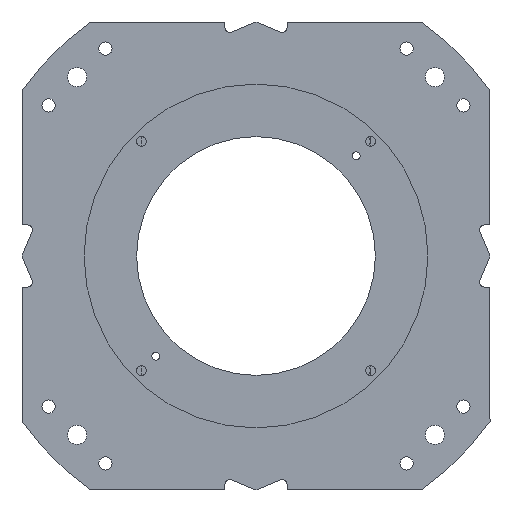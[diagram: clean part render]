
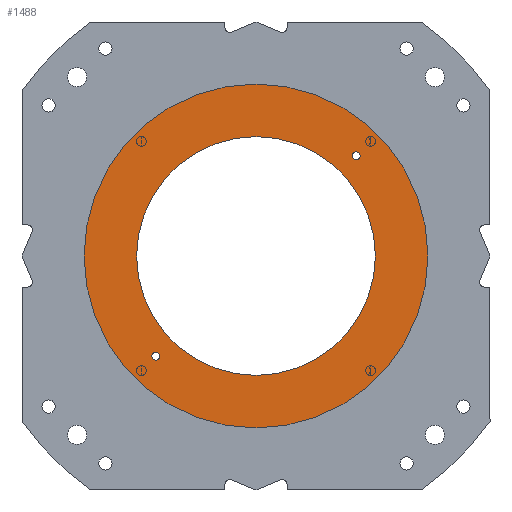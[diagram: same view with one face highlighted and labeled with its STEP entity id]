
A CAD part, front view. The second image highlights one B-rep face of the part: STEP entity #1488.
In plain terms, the highlighted planar face has unit normal (0, -1, 0).
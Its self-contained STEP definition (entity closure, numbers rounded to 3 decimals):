
#177 = CARTESIAN_POINT ( 'NONE',  ( 0., 1163., -180. ) ) ;
#182 = ORIENTED_EDGE ( 'NONE', *, *, #3646, .F. ) ;
#209 = AXIS2_PLACEMENT_3D ( 'NONE', #10570, #9640, #2429 ) ;
#368 = ORIENTED_EDGE ( 'NONE', *, *, #8522, .F. ) ;
#638 = CARTESIAN_POINT ( 'NONE',  ( 0., 1163., 0. ) ) ;
#656 = ORIENTED_EDGE ( 'NONE', *, *, #6267, .F. ) ;
#734 = AXIS2_PLACEMENT_3D ( 'NONE', #638, #6990, #6229 ) ;
#924 = DIRECTION ( 'NONE',  ( 0., 0., 1. ) ) ;
#944 = FACE_BOUND ( 'NONE', #10889, .T. ) ;
#1486 = CARTESIAN_POINT ( 'NONE',  ( 0., 1163., 0. ) ) ;
#1488 = ADVANCED_FACE ( 'NONE', ( #7235, #10774, #944, #9907 ), #7181, .T. ) ;
#1516 = CIRCLE ( 'NONE', #6929, 4. ) ;
#1650 = DIRECTION ( 'NONE',  ( 0., 0., -1. ) ) ;
#1692 = CIRCLE ( 'NONE', #9876, 4. ) ;
#1734 = CARTESIAN_POINT ( 'NONE',  ( 0., 1163., -125. ) ) ;
#1789 = CARTESIAN_POINT ( 'NONE',  ( 0., 1163., 180. ) ) ;
#1799 = CIRCLE ( 'NONE', #8316, 180. ) ;
#1859 = CARTESIAN_POINT ( 'NONE',  ( 105., 1163., 105. ) ) ;
#1886 = CIRCLE ( 'NONE', #8587, 4. ) ;
#2151 = VERTEX_POINT ( 'NONE', #11393 ) ;
#2183 = EDGE_CURVE ( 'NONE', #6730, #9741, #1799, .T. ) ;
#2218 = VERTEX_POINT ( 'NONE', #1734 ) ;
#2257 = DIRECTION ( 'NONE',  ( 0., 0., -1. ) ) ;
#2429 = DIRECTION ( 'NONE',  ( 0., 0., 1. ) ) ;
#2530 = DIRECTION ( 'NONE',  ( 0., 0., -1. ) ) ;
#2596 = ORIENTED_EDGE ( 'NONE', *, *, #2183, .F. ) ;
#2634 = DIRECTION ( 'NONE',  ( 0., -1., 0. ) ) ;
#2746 = DIRECTION ( 'NONE',  ( 0., -1., 0. ) ) ;
#2843 = VERTEX_POINT ( 'NONE', #10370 ) ;
#3197 = AXIS2_PLACEMENT_3D ( 'NONE', #8482, #5045, #2257 ) ;
#3589 = CARTESIAN_POINT ( 'NONE',  ( 0., 1163., 0. ) ) ;
#3646 = EDGE_CURVE ( 'NONE', #2151, #2218, #7794, .T. ) ;
#3702 = DIRECTION ( 'NONE',  ( 0., 1., 0. ) ) ;
#3724 = CARTESIAN_POINT ( 'NONE',  ( 0., 1163., 0. ) ) ;
#4102 = EDGE_CURVE ( 'NONE', #2218, #2151, #10202, .T. ) ;
#4331 = DIRECTION ( 'NONE',  ( 0., -1., 0. ) ) ;
#4365 = CARTESIAN_POINT ( 'NONE',  ( -105., 1163., -109. ) ) ;
#4545 = DIRECTION ( 'NONE',  ( 0., 0., -1. ) ) ;
#4559 = DIRECTION ( 'NONE',  ( 0., 0., -1. ) ) ;
#5045 = DIRECTION ( 'NONE',  ( 0., -1., 0. ) ) ;
#5394 = EDGE_CURVE ( 'NONE', #9741, #6730, #9109, .T. ) ;
#5402 = VERTEX_POINT ( 'NONE', #5999 ) ;
#5834 = CIRCLE ( 'NONE', #3197, 4. ) ;
#5943 = AXIS2_PLACEMENT_3D ( 'NONE', #1486, #4331, #1650 ) ;
#5999 = CARTESIAN_POINT ( 'NONE',  ( -105., 1163., -101. ) ) ;
#6006 = ORIENTED_EDGE ( 'NONE', *, *, #7168, .F. ) ;
#6013 = EDGE_LOOP ( 'NONE', ( #368, #656 ) ) ;
#6026 = CARTESIAN_POINT ( 'NONE',  ( 105., 1163., 109. ) ) ;
#6035 = EDGE_LOOP ( 'NONE', ( #6006, #9113 ) ) ;
#6229 = DIRECTION ( 'NONE',  ( 0., 0., -1. ) ) ;
#6267 = EDGE_CURVE ( 'NONE', #6375, #5402, #1692, .T. ) ;
#6334 = CARTESIAN_POINT ( 'NONE',  ( -105., 1163., -105. ) ) ;
#6375 = VERTEX_POINT ( 'NONE', #4365 ) ;
#6730 = VERTEX_POINT ( 'NONE', #1789 ) ;
#6918 = CARTESIAN_POINT ( 'NONE',  ( -105., 1163., -105. ) ) ;
#6929 = AXIS2_PLACEMENT_3D ( 'NONE', #6918, #2634, #2530 ) ;
#6990 = DIRECTION ( 'NONE',  ( 0., -1., 0. ) ) ;
#7168 = EDGE_CURVE ( 'NONE', #8730, #2843, #1886, .T. ) ;
#7181 = PLANE ( 'NONE',  #11044 ) ;
#7235 = FACE_BOUND ( 'NONE', #6035, .T. ) ;
#7357 = DIRECTION ( 'NONE',  ( 0., -1., 0. ) ) ;
#7754 = EDGE_LOOP ( 'NONE', ( #2596, #10126 ) ) ;
#7794 = CIRCLE ( 'NONE', #5943, 125. ) ;
#8316 = AXIS2_PLACEMENT_3D ( 'NONE', #3589, #3702, #924 ) ;
#8482 = CARTESIAN_POINT ( 'NONE',  ( 105., 1163., 105. ) ) ;
#8522 = EDGE_CURVE ( 'NONE', #5402, #6375, #1516, .T. ) ;
#8587 = AXIS2_PLACEMENT_3D ( 'NONE', #1859, #10710, #4545 ) ;
#8730 = VERTEX_POINT ( 'NONE', #6026 ) ;
#8974 = ORIENTED_EDGE ( 'NONE', *, *, #4102, .F. ) ;
#9020 = DIRECTION ( 'NONE',  ( 0., 0., -1. ) ) ;
#9109 = CIRCLE ( 'NONE', #209, 180. ) ;
#9113 = ORIENTED_EDGE ( 'NONE', *, *, #9951, .F. ) ;
#9640 = DIRECTION ( 'NONE',  ( 0., 1., 0. ) ) ;
#9741 = VERTEX_POINT ( 'NONE', #177 ) ;
#9876 = AXIS2_PLACEMENT_3D ( 'NONE', #6334, #2746, #4559 ) ;
#9907 = FACE_OUTER_BOUND ( 'NONE', #7754, .T. ) ;
#9951 = EDGE_CURVE ( 'NONE', #2843, #8730, #5834, .T. ) ;
#10126 = ORIENTED_EDGE ( 'NONE', *, *, #5394, .F. ) ;
#10202 = CIRCLE ( 'NONE', #734, 125. ) ;
#10370 = CARTESIAN_POINT ( 'NONE',  ( 105., 1163., 101. ) ) ;
#10570 = CARTESIAN_POINT ( 'NONE',  ( 0., 1163., 0. ) ) ;
#10710 = DIRECTION ( 'NONE',  ( 0., -1., 0. ) ) ;
#10774 = FACE_BOUND ( 'NONE', #6013, .T. ) ;
#10889 = EDGE_LOOP ( 'NONE', ( #182, #8974 ) ) ;
#11044 = AXIS2_PLACEMENT_3D ( 'NONE', #3724, #7357, #9020 ) ;
#11393 = CARTESIAN_POINT ( 'NONE',  ( 0., 1163., 125. ) ) ;
